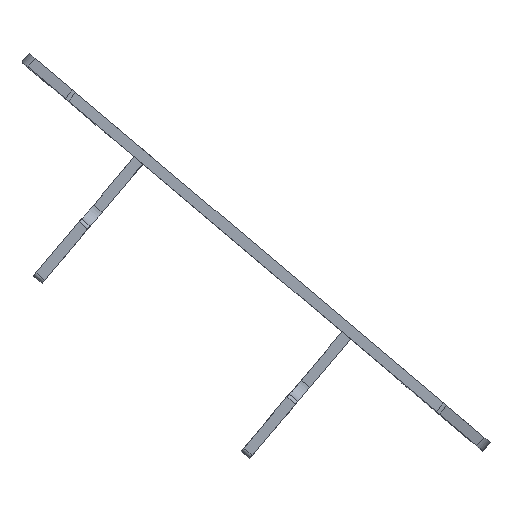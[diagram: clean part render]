
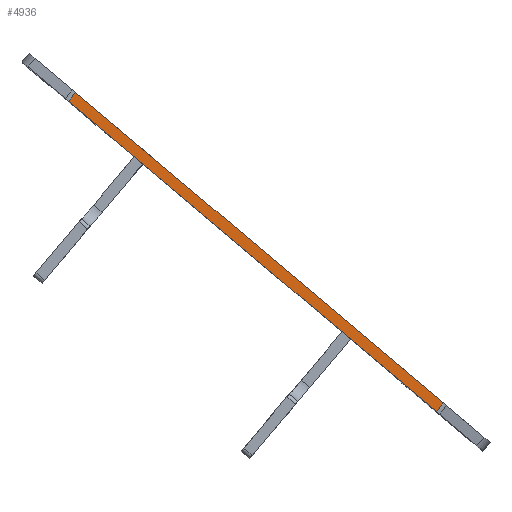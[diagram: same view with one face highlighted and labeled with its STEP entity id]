
A CAD part, top view. The second image highlights one B-rep face of the part: STEP entity #4936.
In plain terms, the highlighted planar face has unit normal (0, 0, 1).
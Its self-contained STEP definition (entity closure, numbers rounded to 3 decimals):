
#92 = EDGE_CURVE ( 'NONE', #1734, #356, #5749, .T. ) ;
#114 = ORIENTED_EDGE ( 'NONE', *, *, #6249, .F. ) ;
#180 = CARTESIAN_POINT ( 'NONE',  ( 1189.896, 409.379, -209.759 ) ) ;
#260 = PLANE ( 'NONE',  #4990 ) ;
#304 = DIRECTION ( 'NONE',  ( -0.764, 0.645, 0. ) ) ;
#356 = VERTEX_POINT ( 'NONE', #3404 ) ;
#675 = VECTOR ( 'NONE', #2066, 1000. ) ;
#774 = CARTESIAN_POINT ( 'NONE',  ( 1186.027, 404.793, -209.759 ) ) ;
#1440 = EDGE_LOOP ( 'NONE', ( #114, #2296, #6121, #4007 ) ) ;
#1734 = VERTEX_POINT ( 'NONE', #5279 ) ;
#1757 = DIRECTION ( 'NONE',  ( 0.764, -0.645, 0. ) ) ;
#1771 = FACE_OUTER_BOUND ( 'NONE', #1440, .T. ) ;
#1885 = LINE ( 'NONE', #774, #4857 ) ;
#2006 = CARTESIAN_POINT ( 'NONE',  ( 1186.027, 404.793, -209.759 ) ) ;
#2066 = DIRECTION ( 'NONE',  ( 0.645, 0.764, 0. ) ) ;
#2296 = ORIENTED_EDGE ( 'NONE', *, *, #4075, .T. ) ;
#2386 = DIRECTION ( 'NONE',  ( -0.764, 0.645, 0. ) ) ;
#2895 = DIRECTION ( 'NONE',  ( 0.645, 0.764, 0. ) ) ;
#3404 = CARTESIAN_POINT ( 'NONE',  ( 992.202, 576.146, -209.759 ) ) ;
#3519 = DIRECTION ( 'NONE',  ( 0., 0., 1. ) ) ;
#3694 = VERTEX_POINT ( 'NONE', #4096 ) ;
#4007 = ORIENTED_EDGE ( 'NONE', *, *, #92, .F. ) ;
#4075 = EDGE_CURVE ( 'NONE', #3694, #5479, #1885, .T. ) ;
#4096 = CARTESIAN_POINT ( 'NONE',  ( 1186.027, 404.793, -209.759 ) ) ;
#4472 = CARTESIAN_POINT ( 'NONE',  ( 988.333, 571.56, -209.759 ) ) ;
#4532 = VECTOR ( 'NONE', #1757, 1000. ) ;
#4857 = VECTOR ( 'NONE', #2895, 1000. ) ;
#4936 = ADVANCED_FACE ( 'NONE', ( #1771 ), #260, .T. ) ;
#4990 = AXIS2_PLACEMENT_3D ( 'NONE', #4472, #3519, #2386 ) ;
#5112 = LINE ( 'NONE', #2006, #5323 ) ;
#5279 = CARTESIAN_POINT ( 'NONE',  ( 988.333, 571.56, -209.759 ) ) ;
#5323 = VECTOR ( 'NONE', #304, 1000. ) ;
#5479 = VERTEX_POINT ( 'NONE', #6733 ) ;
#5749 = LINE ( 'NONE', #6836, #675 ) ;
#5782 = EDGE_CURVE ( 'NONE', #356, #5479, #6627, .T. ) ;
#6121 = ORIENTED_EDGE ( 'NONE', *, *, #5782, .F. ) ;
#6249 = EDGE_CURVE ( 'NONE', #3694, #1734, #5112, .T. ) ;
#6627 = LINE ( 'NONE', #180, #4532 ) ;
#6733 = CARTESIAN_POINT ( 'NONE',  ( 1189.896, 409.379, -209.759 ) ) ;
#6836 = CARTESIAN_POINT ( 'NONE',  ( 988.333, 571.56, -209.759 ) ) ;
